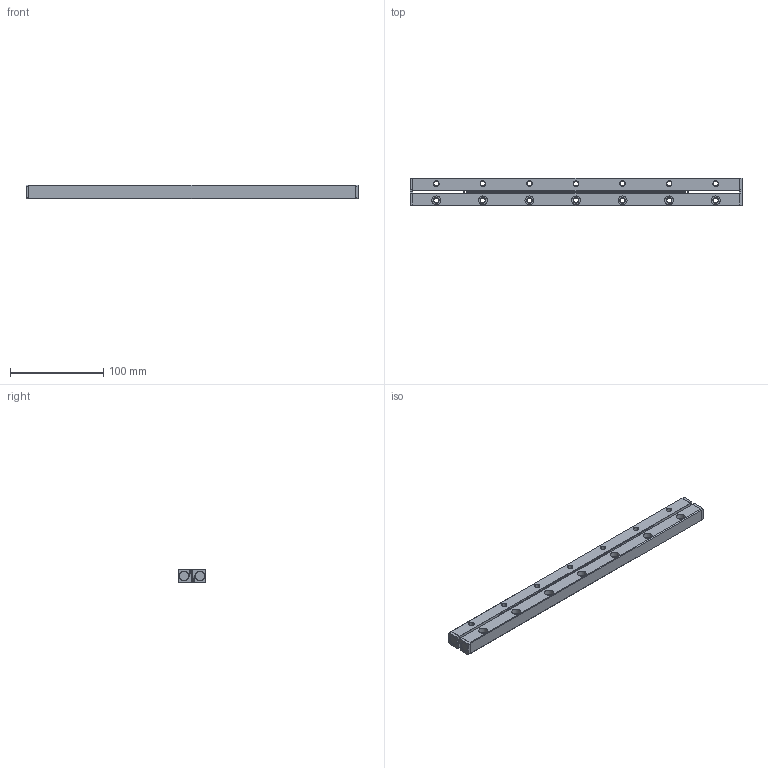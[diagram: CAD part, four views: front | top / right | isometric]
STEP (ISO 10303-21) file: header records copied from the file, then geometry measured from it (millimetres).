
FILE_DESCRIPTION(/* description */ ('Unknown'),/* implementation_level */ '2;1');
FILE_NAME(/* name */ 'VR6-350x24Z',/* time_stamp */ '2025-06-12T09:18:12+08:00',/* author */ ('Unknown'),/* organization */ ('Unknown'),/* preprocessor_version */ 'ST-DEVELOPER v18.102',/* originating_system */ 'Solid Edge',/* authorisation */ 'Unknown');
FILE_SCHEMA (('AUTOMOTIVE_DESIGN {1 0 10303 214 3 1 1}'));
Length unit declared in the file: millimetre
Products named in the file (3): VR6-350x24Z; VR6-350_24Z Roller guide; VR6-350_24Z Roller cage
Assembly tree (3 placements, depth 2):
  VR6-350x24Z
    VR6-350_24Z Roller guide  x2
    VR6-350_24Z Roller cage
Bounding box: 356.4 x 30 x 15 mm (x, y, z)
Volume: 136209.5 mm3; surface area: 55539.9 mm2
Topology: 3 solids, 3 shells, 422 faces, 1110 edges, 712 vertices
Faces by surface type: plane 290, cone 80, cylinder 52
Full cylindrical faces by diameter (mm): 5.2 x14, 6 x24, 9.5 x14
Entity records: 10626 total; most frequent: CARTESIAN_POINT 1793, DIRECTION 1779, ORIENTED_EDGE 1674, EDGE_CURVE 837, VERTEX_POINT 604, LINE 599, VECTOR 599, AXIS2_PLACEMENT_3D 590
